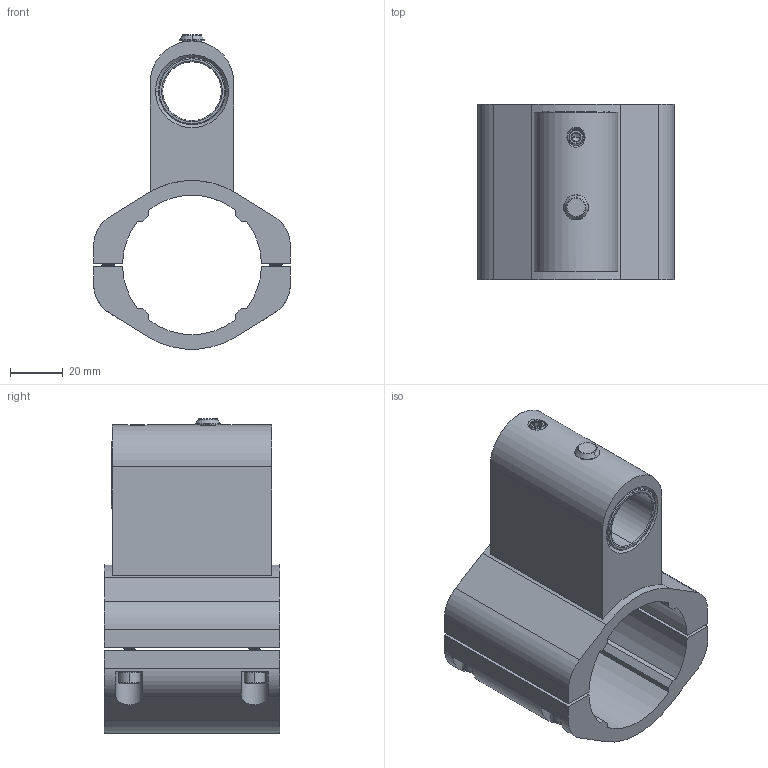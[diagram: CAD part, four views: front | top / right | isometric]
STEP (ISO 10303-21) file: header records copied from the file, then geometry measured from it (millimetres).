
FILE_DESCRIPTION (( 'STEP AP203' ), '1' );
FILE_NAME ('70-0008-00 REV 2, 2in DELUXE POLE MOUNT - step.STEP', '2017-03-20T16:49:14', ( '' ), ( '' ), 'SwSTEP 2.0', 'SolidWorks 2012', '' );
FILE_SCHEMA (( 'CONFIG_CONTROL_DESIGN' ));
Length unit declared in the file: inch
Products named in the file (13): 007-036-00, SHSS, QUARTER28, .25L_007-036-00; 018-002-00, PLUG, HOLE, .25in; 70-0008-00 REV 2, 2in DELUXE POLE MOUNT - step; 016-007-00, OILITE PLUS BEARING, 0.876 id x 1.002 od x 0.75 lg; 016-008-00, OILITE PLUS BEARING, 0.876 id x 1.002 od x 1.25 lg; 001-023-00, FHSCS, 1''4-20, .75L_001-023-00; 002-073-00, SHCS, 10-32 x .75, ZINC_002-073-00; 71-0075-00 REV 1, BLOCK, 2in DLX POLE MOUNT, BLACK; 71-0075-0X REV 1, BLOCK, 2in DLX POLE MOUNT, RAW; 41-0498-00 REV 2, CAP, 2in POLE MOUNT, BLACK_Acid Etch & Black Anodize; 41-0498-10 REV 1, CAP, THREADED, 2in POLE MOUNT, BLACK; 41-0498-0X REV A, CAP, 2in POLE MOUNT, RAW; 41-0498-1X REV 1, CAP THREADED, 2in POLE MOUNT, RAW
Assembly tree (17 placements, depth 3):
  70-0008-00 REV 2, 2in DELUXE POLE MOUNT - step
    41-0498-10 REV 1, CAP, THREADED, 2in POLE MOUNT, BLACK
      41-0498-1X REV 1, CAP THREADED, 2in POLE MOUNT, RAW
    41-0498-00 REV 2, CAP, 2in POLE MOUNT, BLACK_Acid Etch & Black Anodize
      41-0498-0X REV A, CAP, 2in POLE MOUNT, RAW
    71-0075-00 REV 1, BLOCK, 2in DLX POLE MOUNT, BLACK
      71-0075-0X REV 1, BLOCK, 2in DLX POLE MOUNT, RAW
    002-073-00, SHCS, 10-32 x .75, ZINC_002-073-00  x4
    001-023-00, FHSCS, 1''4-20, .75L_001-023-00  x3
    016-008-00, OILITE PLUS BEARING, 0.876 id x 1.002 od x 1.25 lg
    016-007-00, OILITE PLUS BEARING, 0.876 id x 1.002 od x 0.75 lg
    007-036-00, SHSS, QUARTER28, .25L_007-036-00
    018-002-00, PLUG, HOLE, .25in
Bounding box: 74.61 x 66.55 x 119.12 mm (x, y, z)
Volume: 170929.3 mm3; surface area: 65090.9 mm2
Topology: 14 solids, 14 shells, 958 faces, 2571 edges, 1642 vertices
Faces by surface type: cylinder 618, cone 148, plane 139, torus 30, bspline 23
Entity records: 23640 total; most frequent: CARTESIAN_POINT 12398, ORIENTED_EDGE 2254, DIRECTION 1850, EDGE_CURVE 1127, VERTEX_POINT 716, AXIS2_PLACEMENT_3D 709, EDGE_LOOP 469, FACE_OUTER_BOUND 434
